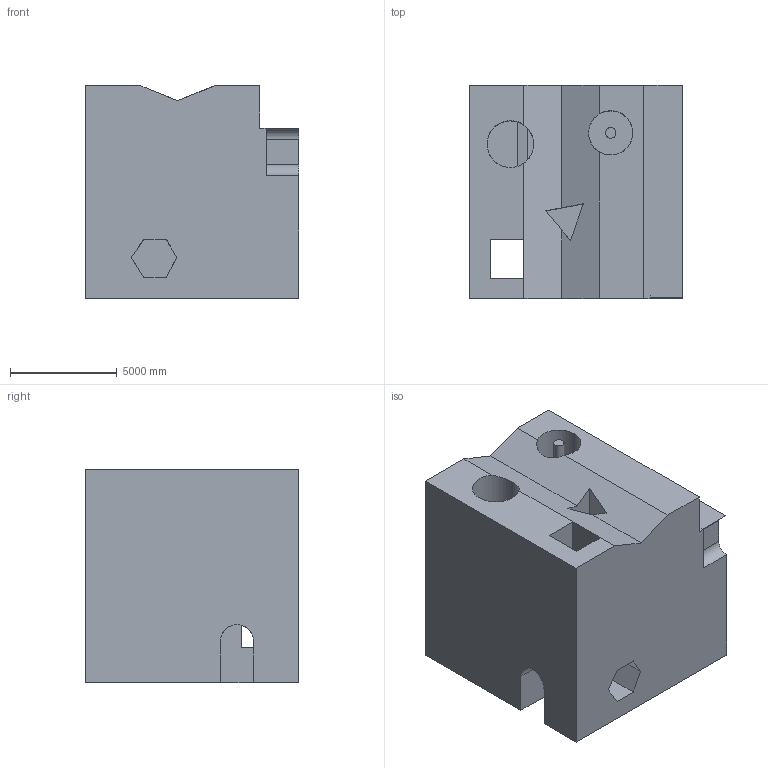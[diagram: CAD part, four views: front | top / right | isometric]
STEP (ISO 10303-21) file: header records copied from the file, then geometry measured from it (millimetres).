
FILE_DESCRIPTION (( 'STEP AP203' ), '1' );
FILE_NAME ('1963.STEP', '2022-08-25T16:53:38', ( 'user' ), ( '' ), 'SwSTEP 2.0', 'SolidWorks 2021', '' );
FILE_SCHEMA (( 'CONFIG_CONTROL_DESIGN' ));
Length unit declared in the file: centimetre
Products named in the file (1): 1963
Bounding box: 10000 x 10000 x 10000 mm (x, y, z)
Volume: 806476658271.5 mm3; surface area: 856742036.1 mm2
Topology: 1 solids, 1 shells, 57 faces, 177 edges, 118 vertices
Faces by surface type: plane 45, cylinder 12
Entity records: 2048 total; most frequent: CARTESIAN_POINT 383, ORIENTED_EDGE 354, DIRECTION 307, EDGE_CURVE 177, VECTOR 143, LINE 143, VERTEX_POINT 118, AXIS2_PLACEMENT_3D 82
